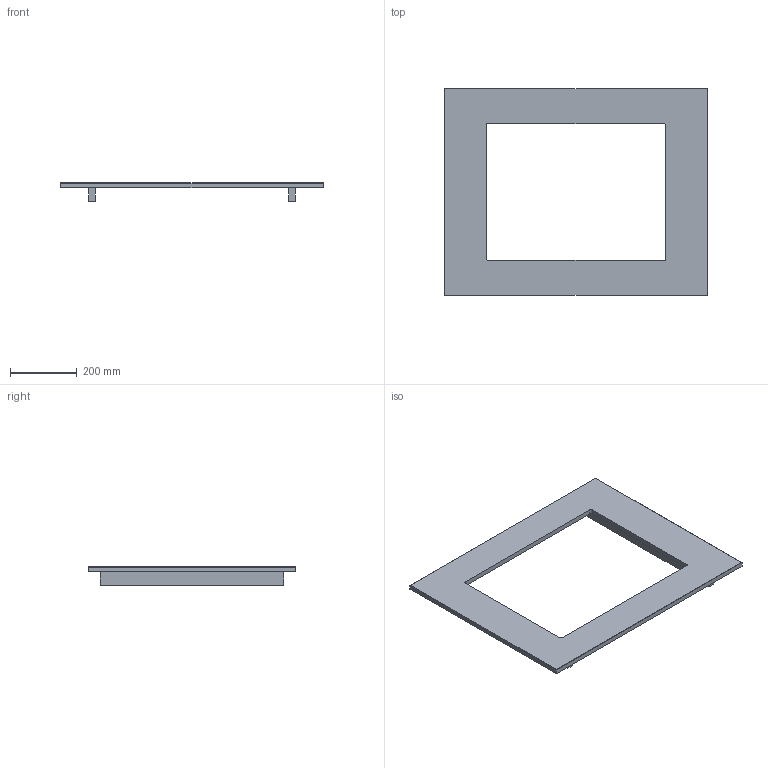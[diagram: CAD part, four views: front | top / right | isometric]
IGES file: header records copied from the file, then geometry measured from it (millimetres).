
Global section: file name: 80013; native system: Autodesk Inventor 2014; preprocessor: unknown; author: ARCH.CARLO COLOMBO; date: 20140526.111439; units: millimetre
Bounding box: 788 x 620 x 55 mm (x, y, z)
Volume: 4893462.4 mm3; surface area: 741520.7 mm2
Topology: 3 solids, 3 shells, 48 faces, 128 edges, 86 vertices
Faces by surface type: bspline 48
